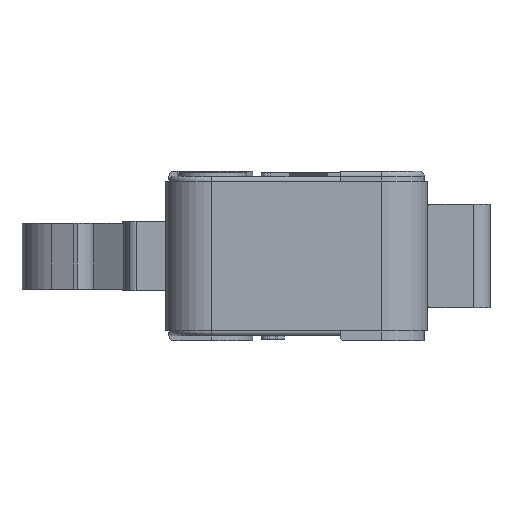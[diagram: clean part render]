
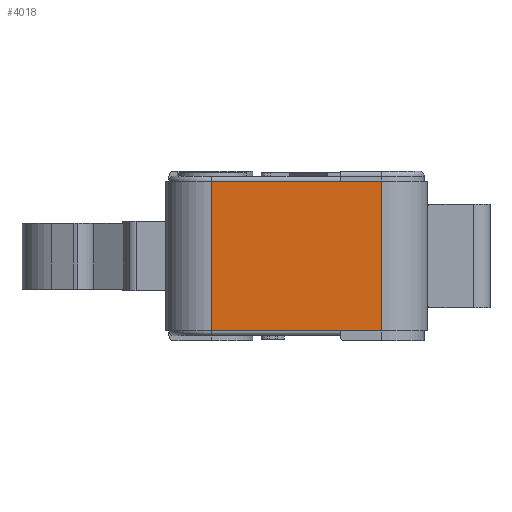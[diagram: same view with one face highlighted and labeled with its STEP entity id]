
A CAD part, left-side view. The second image highlights one B-rep face of the part: STEP entity #4018.
In plain terms, the highlighted planar face has unit normal (-1, 0, 0).
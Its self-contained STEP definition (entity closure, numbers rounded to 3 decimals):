
#3951=CARTESIAN_POINT('',(-13.9,5.15,-4.55));
#3952=VERTEX_POINT('',#3951);
#3953=CARTESIAN_POINT('',(-13.9,5.15,4.55));
#3954=VERTEX_POINT('',#3953);
#3955=CARTESIAN_POINT('',(-13.9,5.15,-4.55));
#3956=DIRECTION('',(0.0,0.0,1.0));
#3957=VECTOR('',#3956,9.1);
#3958=LINE('',#3955,#3957);
#3959=EDGE_CURVE('',#3952,#3954,#3958,.T.);
#3988=CARTESIAN_POINT('',(-13.9,-5.15,-4.55));
#3989=DIRECTION('',(-1.0,0.0,0.0));
#3990=DIRECTION('',(0.0,0.0,1.0));
#3991=AXIS2_PLACEMENT_3D('',#3988,#3989,#3990);
#3992=PLANE('',#3991);
#3993=CARTESIAN_POINT('',(-13.9,-5.15,4.55));
#3994=VERTEX_POINT('',#3993);
#3995=CARTESIAN_POINT('',(-13.9,-5.15,4.55));
#3996=DIRECTION('',(0.0,1.0,0.0));
#3997=VECTOR('',#3996,10.3);
#3998=LINE('',#3995,#3997);
#3999=EDGE_CURVE('',#3994,#3954,#3998,.T.);
#4000=ORIENTED_EDGE('',*,*,#3999,.T.);
#4001=ORIENTED_EDGE('',*,*,#3959,.F.);
#4002=CARTESIAN_POINT('',(-13.9,-5.15,-4.55));
#4003=VERTEX_POINT('',#4002);
#4004=CARTESIAN_POINT('',(-13.9,5.15,-4.55));
#4005=DIRECTION('',(0.0,-1.0,0.0));
#4006=VECTOR('',#4005,10.3);
#4007=LINE('',#4004,#4006);
#4008=EDGE_CURVE('',#3952,#4003,#4007,.T.);
#4009=ORIENTED_EDGE('',*,*,#4008,.T.);
#4010=CARTESIAN_POINT('',(-13.9,-5.15,-4.55));
#4011=DIRECTION('',(0.0,0.0,1.0));
#4012=VECTOR('',#4011,9.1);
#4013=LINE('',#4010,#4012);
#4014=EDGE_CURVE('',#4003,#3994,#4013,.T.);
#4015=ORIENTED_EDGE('',*,*,#4014,.T.);
#4016=EDGE_LOOP('',(#4000,#4001,#4009,#4015));
#4017=FACE_OUTER_BOUND('',#4016,.T.);
#4018=ADVANCED_FACE('',(#4017),#3992,.T.);
